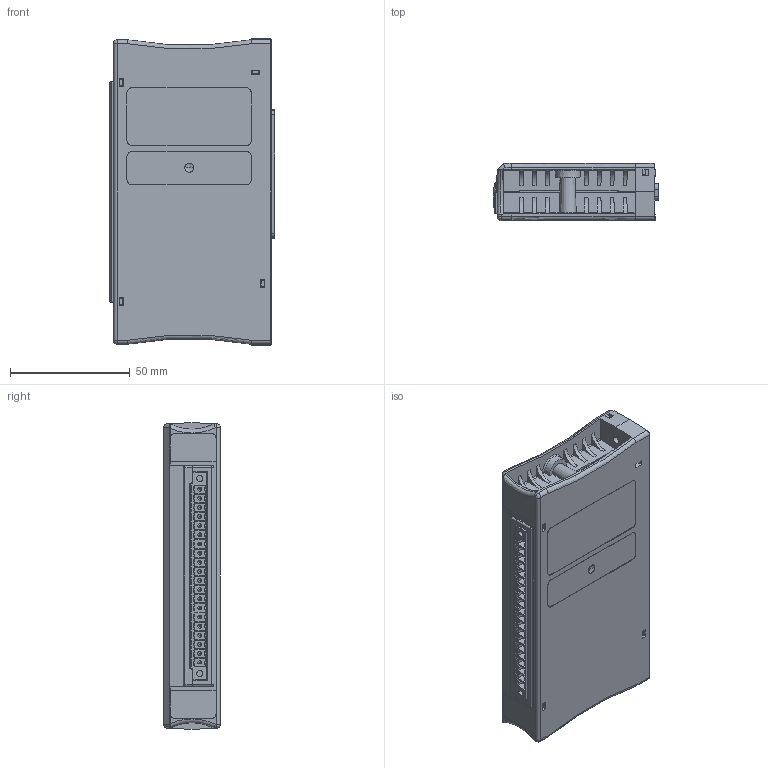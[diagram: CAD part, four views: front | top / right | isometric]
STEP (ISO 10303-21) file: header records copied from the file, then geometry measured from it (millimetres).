
FILE_DESCRIPTION((''),'2;1');
FILE_NAME('CD_CFP-CB4','2008-06-26T',('scarrasc'),(''),'PRO/ENGINEER BY PARAMETRIC TECHNOLOGY CORPORATION, 2006300','PRO/ENGINEER BY PARAMETRIC TECHNOLOGY CORPORATION, 2006300','');
FILE_SCHEMA(('CONFIG_CONTROL_DESIGN'));
Products named in the file (1): CD_CFP-CB4
Bounding box: 69.04 x 23.62 x 127.97 mm (x, y, z)
Volume: 68649.8 mm3; surface area: 62056.1 mm2
Topology: 3 solids, 3 shells, 3335 faces, 8544 edges, 5435 vertices
Faces by surface type: plane 2436, cylinder 685, cone 104, sphere 62, torus 20, bspline 20, extrusion 8
Entity records: 103376 total; most frequent: CARTESIAN_POINT 23146, ORIENTED_EDGE 17000, DIRECTION 15653, EDGE_CURVE 8500, VECTOR 6643, LINE 6635, VERTEX_POINT 5435, AXIS2_PLACEMENT_3D 4505
